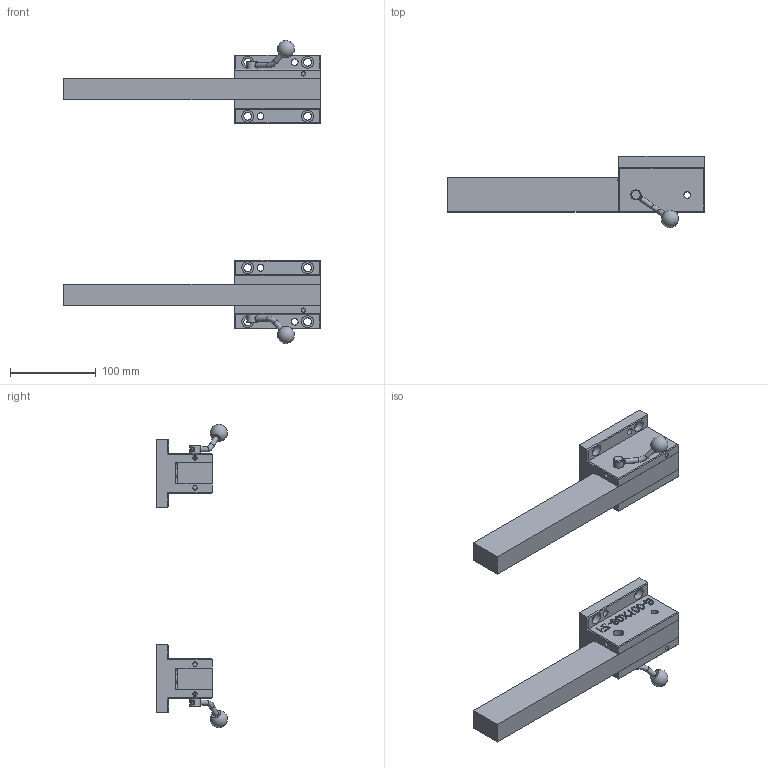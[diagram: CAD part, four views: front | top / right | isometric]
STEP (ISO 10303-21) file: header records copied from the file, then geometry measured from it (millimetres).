
FILE_DESCRIPTION(/* description */ (''),/* implementation_level */ '2;1');
FILE_NAME(/* name */ 'HC-WSFZ-80-100-300.stp',/* time_stamp */ '2018-06-27T12:16:26+08:00',/* author */ (''),/* organization */ (''),/* preprocessor_version */ 'ST-DEVELOPER v16',/* originating_system */ 'SIEMENS PLM Software NX 11.0',/* authorisation */ '');
FILE_SCHEMA (('AUTOMOTIVE_DESIGN { 1 0 10303 214 3 1 1 1 }'));
Length unit declared in the file: millimetre
Products named in the file (1): HC-WSFZ-80-100-300_stp
Bounding box: 300 x 82.84 x 354.07 mm (x, y, z)
Volume: 1063272.9 mm3; surface area: 184145.6 mm2
Topology: 14 solids, 18 shells, 450 faces, 1052 edges, 692 vertices
Faces by surface type: plane 270, cylinder 86, extrusion 58, bspline 16, cone 12, sphere 6, torus 2
Full cylindrical faces by diameter (mm): 3.2 x8, 4 x4, 4.9 x2, 5 x8, 5.2 x4, 6 x8, 8 x8, 9 x8, 10 x6, 12 x8, 14 x8
Entity records: 17180 total; most frequent: CARTESIAN_POINT 4715, ORIENTED_EDGE 1828, DIRECTION 1760, EDGE_CURVE 914, EDGE_LOOP 668, VERTEX_POINT 652, VECTOR 626, LINE 568
